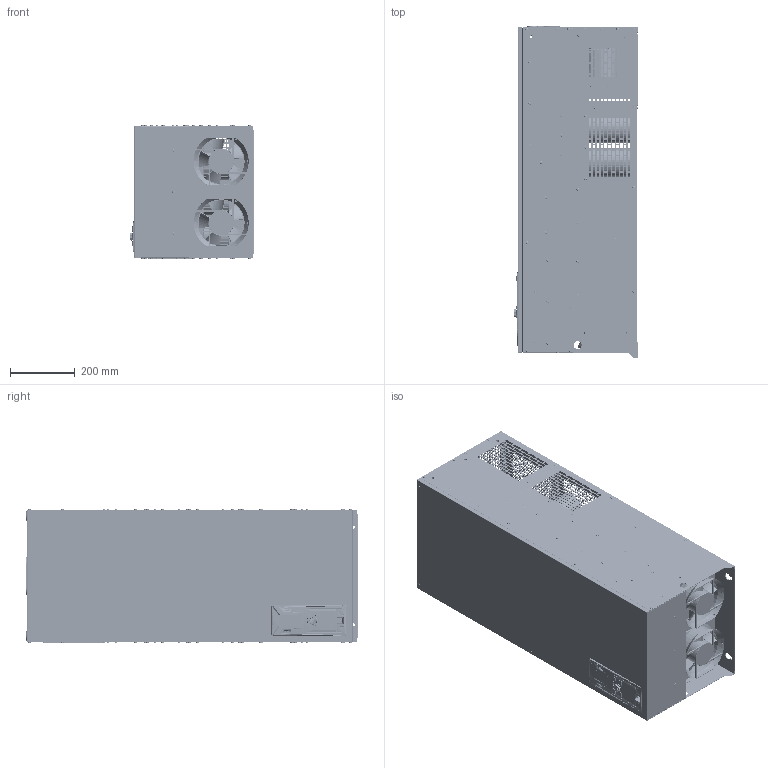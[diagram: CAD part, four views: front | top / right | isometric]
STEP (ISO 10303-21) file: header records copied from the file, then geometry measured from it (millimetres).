
FILE_DESCRIPTION((''),'2;1');
FILE_NAME('700-380-_185-220__ASM','2026-05-06T16:02:09',('23373'),(''),'CREO PARAMETRIC BY PTC INC, 2021023','CREO PARAMETRIC BY PTC INC, 2021023','');
FILE_SCHEMA(('AUTOMOTIVE_DESIGN { 1 0 10303 214 1 1 1 1 }'));
Products named in the file (171): CA700-185KW-SR-01-_8; CA700-185KW-SR-_ASM_3_ASM; CA700L-185KW-BJ-01-01_11; BSO-3R5M4-14-ZC_50; S-M8-ZC_44; S-M4-ZC_44; CA700L-185KW-BJ-01-01_ASM_9_ASM; CA700L-185KW-BJ-01-02_11; CA700L-185KW-BJ-01-02_ASM_6_ASM; CA700L-185KW-BJ-01-03_17; SO-3R5M3-26-ZC_50; SO-3R5M4-16-ZC_50; CA700L-185KW-BJ-01-03_ASM_19_ASM; CA700L-185KW-BJ-01-04_10; CA700L-185KW-BJ-01-04_ASM_3_ASM; CA700L-185KW-BJ-01-05_7; CA700L-185KW-BJ-01-05_ASM_3_ASM; CA700L-185KW-BJ-01-06_9; CA700L-185KW-BJ-01-06_ASM_4_ASM; CA700L-185KW-BJ-01-07_4; CA700L-185KW-BJ-01-07_ASM_2_ASM; CA700L-185KW-BJ-01-08_7; CA700L-185KW-BJ-01-08_ASM_3_ASM; CA700L-185KW-BJ-01-09_7; CA700L-185KW-BJ-01-09_ASM_3_ASM; CA700L-185KW-BJ-01-10_10; CA700L-185KW-BJ-01-10_ASM_3_ASM; CA700-45KW-BJ-01-07_2; D4X8-GB12618-1990_1; CA700L-185KW-BJ-01_ASM_16_ASM; CA700L-185KW-BJ-02_11; S-M5-ZC_44; CA700L-185KW-BJ-02_ASM_5_ASM; CA700L-185KW-BJ-03_9; CA700L-185KW-BJ-03_ASM_5_ASM; CA700L-185KW-BJ-04_7; SO-3R5M3-6-ZC_50; CA700L-185KW-BJ-04_ASM_4_ASM; CA700L-185KW-BJ-05_4; CA700L-185KW-BJ-05_ASM_2_ASM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
Assembly tree (478 placements, depth 9):
  700-380-_185-220__ASM
    0CA700L-185KW_ASM_25_ASM
      CA700-185KW-SR-_ASM_3_ASM
        CA700-185KW-SR-01-_8
      CA700L-185KW-BJ_ASM_19_ASM
        CA700L-185KW-BJ-01_ASM_16_ASM
          CA700L-185KW-BJ-01-01_ASM_9_ASM
            CA700L-185KW-BJ-01-01_11
            BSO-3R5M4-14-ZC_50  x2
            S-M8-ZC_44  x6
            S-M4-ZC_44  x12
          CA700L-185KW-BJ-01-02_ASM_6_ASM
            CA700L-185KW-BJ-01-02_11
            S-M8-ZC_44  x12
            S-M4-ZC_44  x2
          CA700L-185KW-BJ-01-03_ASM_19_ASM
            CA700L-185KW-BJ-01-03_17
            S-M4-ZC_44  x20
            SO-3R5M3-26-ZC_50  x6
            SO-3R5M4-16-ZC_50  x9
          CA700L-185KW-BJ-01-04_ASM_3_ASM  x2
            CA700L-185KW-BJ-01-04_10
            S-M4-ZC_44
          CA700L-185KW-BJ-01-05_ASM_3_ASM
            CA700L-185KW-BJ-01-05_7
            S-M4-ZC_44  x3
          CA700L-185KW-BJ-01-06_ASM_4_ASM
            CA700L-185KW-BJ-01-06_9
            S-M4-ZC_44  x3
          CA700L-185KW-BJ-01-07_ASM_2_ASM
            CA700L-185KW-BJ-01-07_4
          CA700L-185KW-BJ-01-08_ASM_3_ASM
            CA700L-185KW-BJ-01-08_7
            S-M4-ZC_44  x3
          CA700L-185KW-BJ-01-09_ASM_3_ASM
            CA700L-185KW-BJ-01-09_7
            S-M4-ZC_44  x3
          CA700L-185KW-BJ-01-10_ASM_3_ASM
            CA700L-185KW-BJ-01-10_10
          CA700-45KW-BJ-01-07_2  x5
          D4X8-GB12618-1990_1  x86
        CA700L-185KW-BJ-02_ASM_5_ASM
          CA700L-185KW-BJ-02_11
          S-M5-ZC_44  x10
          S-M8-ZC_44
        CA700L-185KW-BJ-03_ASM_5_ASM
          CA700L-185KW-BJ-03_9
          S-M5-ZC_44  x8
          S-M8-ZC_44  x2
          S-M4-ZC_44
        CA700L-185KW-BJ-04_ASM_4_ASM
          CA700L-185KW-BJ-04_7
          S-M4-ZC_44  x4
          SO-3R5M3-6-ZC_50  x3
        CA700L-185KW-BJ-05_ASM_2_ASM
          CA700L-185KW-BJ-05_4
          S-M4-ZC_44  x8
        CA700-185KW-BJ-06_ASM_2_ASM
          CA700-185KW-BJ-06_1
          S-M6-ZC_44  x2
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Bounding box: 382.93 x 1025 x 413.4 mm (x, y, z)
Volume: 31128885.7 mm3; surface area: 13388074.8 mm2
Topology: 429 solids, 456 shells, 59727 faces, 165053 edges, 108600 vertices
Faces by surface type: plane 50216, cylinder 6732, cone 1379, bspline 762, extrusion 246, revolution 174, torus 160, sphere 58
Entity records: 885674 total; most frequent: CARTESIAN_POINT 178560, ORIENTED_EDGE 122375, DIRECTION 110382, EDGE_CURVE 61230, VECTOR 49070, LINE 48824, VERTEX_POINT 39988, AXIS2_PLACEMENT_3D 30654
